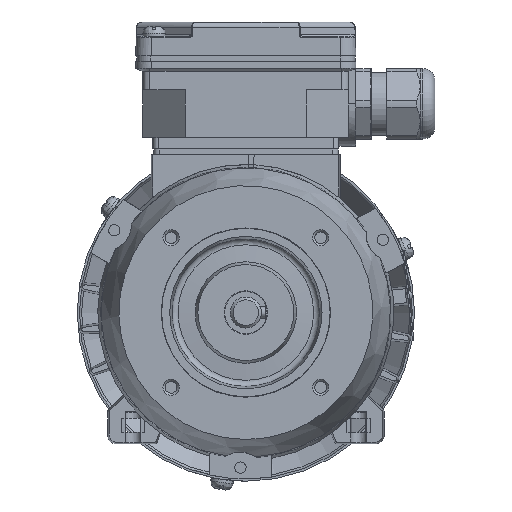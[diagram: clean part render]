
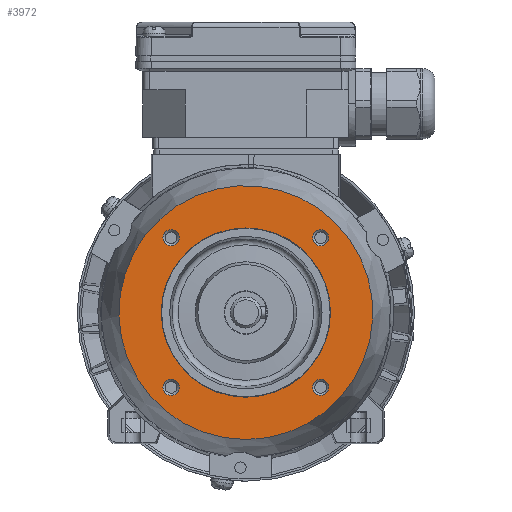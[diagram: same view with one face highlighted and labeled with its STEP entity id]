
A CAD part, left-side view. The second image highlights one B-rep face of the part: STEP entity #3972.
In plain terms, the highlighted planar face has unit normal (-1, 0, 0) as drawn and (0, -1, 0) by its records, which use the part's own axes.
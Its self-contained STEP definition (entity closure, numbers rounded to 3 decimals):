
#3972 = ADVANCED_FACE( '', ( #8495, #8496, #8497, #8498, #8499, #8500 ), #8501, .T. );
#8495 = FACE_BOUND( '', #18823, .T. );
#8496 = FACE_BOUND( '', #18824, .T. );
#8497 = FACE_BOUND( '', #18825, .T. );
#8498 = FACE_BOUND( '', #18826, .T. );
#8499 = FACE_OUTER_BOUND( '', #18827, .T. );
#8500 = FACE_BOUND( '', #18828, .T. );
#8501 = PLANE( '', #18829 );
#18823 = EDGE_LOOP( '', ( #32555 ) );
#18824 = EDGE_LOOP( '', ( #32556 ) );
#18825 = EDGE_LOOP( '', ( #32557 ) );
#18826 = EDGE_LOOP( '', ( #32558 ) );
#18827 = EDGE_LOOP( '', ( #32559 ) );
#18828 = EDGE_LOOP( '', ( #32560 ) );
#18829 = AXIS2_PLACEMENT_3D( '', #32561, #32562, #32563 );
#32555 = ORIENTED_EDGE( '', *, *, #41316, .T. );
#32556 = ORIENTED_EDGE( '', *, *, #44379, .T. );
#32557 = ORIENTED_EDGE( '', *, *, #40766, .T. );
#32558 = ORIENTED_EDGE( '', *, *, #44380, .T. );
#32559 = ORIENTED_EDGE( '', *, *, #44381, .T. );
#32560 = ORIENTED_EDGE( '', *, *, #43795, .F. );
#32561 = CARTESIAN_POINT( '', ( 0., 2.5, 30. ) );
#32562 = DIRECTION( '', ( 0., -1., 0. ) );
#32563 = DIRECTION( '', ( 0., 0., -1. ) );
#40766 = EDGE_CURVE( '', #47297, #47297, #47298, .F. );
#41316 = EDGE_CURVE( '', #48269, #48269, #48270, .F. );
#43795 = EDGE_CURVE( '', #52189, #52189, #52190, .T. );
#44379 = EDGE_CURVE( '', #53050, #53050, #53051, .F. );
#44380 = EDGE_CURVE( '', #53052, #53052, #53053, .F. );
#44381 = EDGE_CURVE( '', #53054, #53054, #53055, .T. );
#47297 = VERTEX_POINT( '', #57260 );
#47298 = CIRCLE( '', #57261, 2.867 );
#48269 = VERTEX_POINT( '', #59534 );
#48270 = CIRCLE( '', #59535, 2.867 );
#52189 = VERTEX_POINT( '', #67881 );
#52190 = CIRCLE( '', #67882, 30. );
#53050 = VERTEX_POINT( '', #69616 );
#53051 = CIRCLE( '', #69617, 2.867 );
#53052 = VERTEX_POINT( '', #69618 );
#53053 = CIRCLE( '', #69619, 2.867 );
#53054 = VERTEX_POINT( '', #69620 );
#53055 = CIRCLE( '', #69621, 45. );
#57260 = CARTESIAN_POINT( '', ( 26.517, 2.5, 23.65 ) );
#57261 = AXIS2_PLACEMENT_3D( '', #75380, #75381, #75382 );
#59534 = CARTESIAN_POINT( '', ( -26.517, 2.5, -29.384 ) );
#59535 = AXIS2_PLACEMENT_3D( '', #75995, #75996, #75997 );
#67881 = CARTESIAN_POINT( '', ( 0., 2.5, -30. ) );
#67882 = AXIS2_PLACEMENT_3D( '', #78892, #78893, #78894 );
#69616 = CARTESIAN_POINT( '', ( 26.517, 2.5, -29.384 ) );
#69617 = AXIS2_PLACEMENT_3D( '', #79776, #79777, #79778 );
#69618 = CARTESIAN_POINT( '', ( -26.517, 2.5, 23.65 ) );
#69619 = AXIS2_PLACEMENT_3D( '', #79779, #79780, #79781 );
#69620 = CARTESIAN_POINT( '', ( 0., 2.5, -45. ) );
#69621 = AXIS2_PLACEMENT_3D( '', #79782, #79783, #79784 );
#75380 = CARTESIAN_POINT( '', ( 26.517, 2.5, 26.517 ) );
#75381 = DIRECTION( '', ( 0., -1., 0. ) );
#75382 = DIRECTION( '', ( 0., 0., -1. ) );
#75995 = CARTESIAN_POINT( '', ( -26.517, 2.5, -26.517 ) );
#75996 = DIRECTION( '', ( 0., -1., 0. ) );
#75997 = DIRECTION( '', ( 0., 0., -1. ) );
#78892 = CARTESIAN_POINT( '', ( 0., 2.5, 0. ) );
#78893 = DIRECTION( '', ( 0., -1., 0. ) );
#78894 = DIRECTION( '', ( 0., 0., -1. ) );
#79776 = CARTESIAN_POINT( '', ( 26.517, 2.5, -26.517 ) );
#79777 = DIRECTION( '', ( 0., -1., 0. ) );
#79778 = DIRECTION( '', ( 0., 0., -1. ) );
#79779 = CARTESIAN_POINT( '', ( -26.517, 2.5, 26.517 ) );
#79780 = DIRECTION( '', ( 0., -1., 0. ) );
#79781 = DIRECTION( '', ( 0., 0., -1. ) );
#79782 = CARTESIAN_POINT( '', ( 0., 2.5, 0. ) );
#79783 = DIRECTION( '', ( 0., -1., 0. ) );
#79784 = DIRECTION( '', ( 0., 0., -1. ) );
